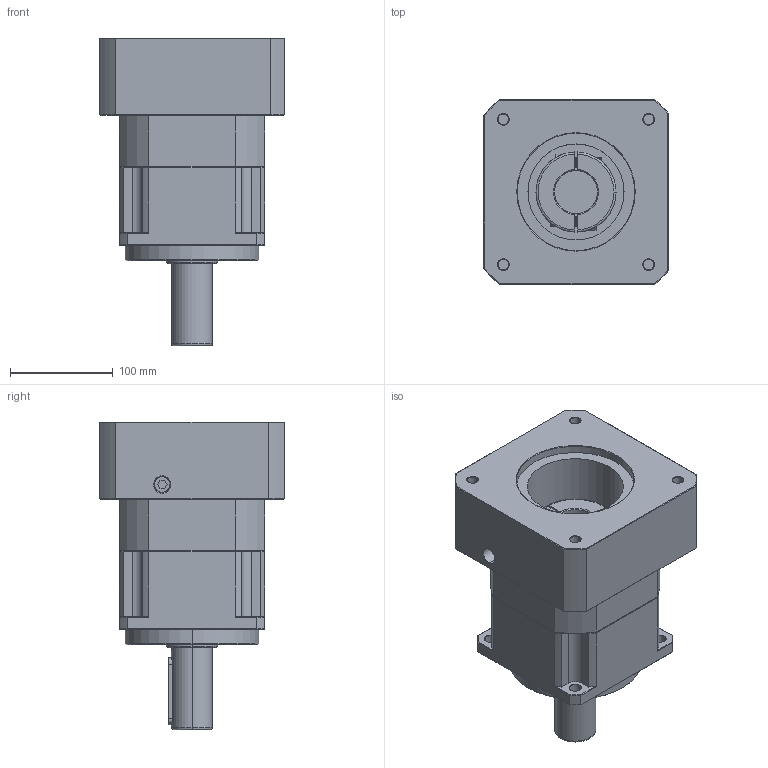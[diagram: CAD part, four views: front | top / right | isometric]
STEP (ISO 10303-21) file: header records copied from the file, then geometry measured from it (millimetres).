
FILE_DESCRIPTION (( 'STEP AP214' ), '1' );
FILE_NAME ('ZPB142-L1-P1-S2-42-114.3-200-M12.step', '2024-07-05T00:16:43', ( 'Windows 蚚誧' ), ( 'Organization' ), 'SwSTEP 2.0', 'SolidWorks 2016', '' );
FILE_SCHEMA (( 'AUTOMOTIVE_DESIGN' ));
Length unit declared in the file: millimetre
Products named in the file (1): ZPB142-L1-P1-S2-42-114.3-200-M12
Bounding box: 180 x 180 x 299.5 mm (x, y, z)
Surface area: 270726.7 mm2 (no closed solid volume)
Topology: 0 solids, 37 shells, 1769 faces, 4724 edges, 3030 vertices
Faces by surface type: plane 912, bspline 383, cone 263, cylinder 211
Full cylindrical faces by diameter (mm): 14 x1
Entity records: 99890 total; most frequent: CARTESIAN_POINT 50502, ORIENTED_EDGE 9423, DIRECTION 7228, EDGE_CURVE 4723, LINE 3138, VECTOR 3138, VERTEX_POINT 3030, AXIS2_PLACEMENT_3D 2045
